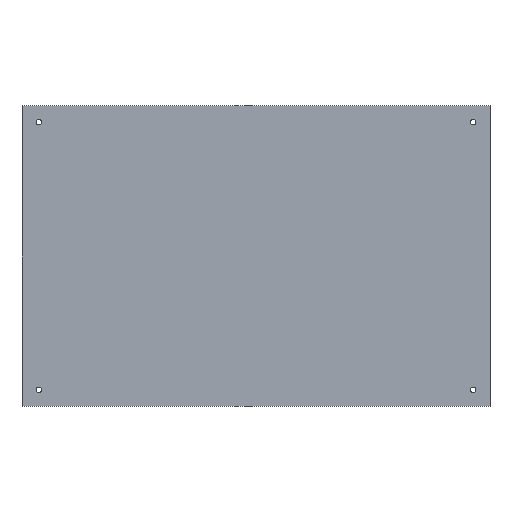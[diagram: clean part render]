
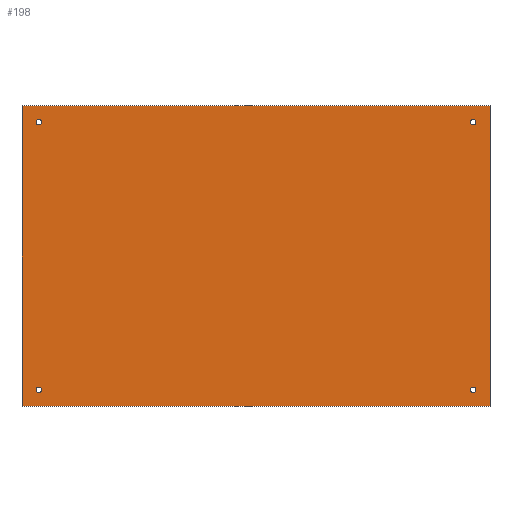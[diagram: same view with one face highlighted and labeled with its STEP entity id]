
A CAD part, top view. The second image highlights one B-rep face of the part: STEP entity #198.
In plain terms, the highlighted planar face has unit normal (0, 0, 1).
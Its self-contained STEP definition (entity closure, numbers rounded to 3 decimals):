
#42 = VERTEX_POINT('',#43);
#43 = CARTESIAN_POINT('',(280.,-180.,1.51));
#49 = EDGE_CURVE('',#42,#50,#52,.T.);
#50 = VERTEX_POINT('',#51);
#51 = CARTESIAN_POINT('',(0.,-180.,1.51));
#52 = LINE('',#53,#54);
#53 = CARTESIAN_POINT('',(280.,-180.,1.51));
#54 = VECTOR('',#55,1.);
#55 = DIRECTION('',(-1.,0.,0.));
#82 = VERTEX_POINT('',#83);
#83 = CARTESIAN_POINT('',(280.,0.,1.51));
#89 = EDGE_CURVE('',#82,#42,#90,.T.);
#90 = LINE('',#91,#92);
#91 = CARTESIAN_POINT('',(280.,0.,1.51));
#92 = VECTOR('',#93,1.);
#93 = DIRECTION('',(0.,-1.,0.));
#111 = EDGE_CURVE('',#50,#112,#114,.T.);
#112 = VERTEX_POINT('',#113);
#113 = CARTESIAN_POINT('',(0.,0.,1.51));
#114 = LINE('',#115,#116);
#115 = CARTESIAN_POINT('',(0.,-180.,1.51));
#116 = VECTOR('',#117,1.);
#117 = DIRECTION('',(0.,1.,0.));
#198 = ADVANCED_FACE('',(#199,#210,#221,#232,#243),#254,.T.);
#199 = FACE_BOUND('',#200,.T.);
#200 = EDGE_LOOP('',(#201,#202,#203,#209));
#201 = ORIENTED_EDGE('',*,*,#49,.F.);
#202 = ORIENTED_EDGE('',*,*,#89,.F.);
#203 = ORIENTED_EDGE('',*,*,#204,.F.);
#204 = EDGE_CURVE('',#112,#82,#205,.T.);
#205 = LINE('',#206,#207);
#206 = CARTESIAN_POINT('',(0.,0.,1.51));
#207 = VECTOR('',#208,1.);
#208 = DIRECTION('',(1.,0.,0.));
#209 = ORIENTED_EDGE('',*,*,#111,.F.);
#210 = FACE_BOUND('',#211,.T.);
#211 = EDGE_LOOP('',(#212));
#212 = ORIENTED_EDGE('',*,*,#213,.T.);
#213 = EDGE_CURVE('',#214,#214,#216,.T.);
#214 = VERTEX_POINT('',#215);
#215 = CARTESIAN_POINT('',(10.,-171.6,1.51));
#216 = CIRCLE('',#217,1.6);
#217 = AXIS2_PLACEMENT_3D('',#218,#219,#220);
#218 = CARTESIAN_POINT('',(10.,-170.,1.51));
#219 = DIRECTION('',(-0.,0.,-1.));
#220 = DIRECTION('',(-0.,-1.,0.));
#221 = FACE_BOUND('',#222,.T.);
#222 = EDGE_LOOP('',(#223));
#223 = ORIENTED_EDGE('',*,*,#224,.T.);
#224 = EDGE_CURVE('',#225,#225,#227,.T.);
#225 = VERTEX_POINT('',#226);
#226 = CARTESIAN_POINT('',(270.,-171.6,1.51));
#227 = CIRCLE('',#228,1.6);
#228 = AXIS2_PLACEMENT_3D('',#229,#230,#231);
#229 = CARTESIAN_POINT('',(270.,-170.,1.51));
#230 = DIRECTION('',(-0.,0.,-1.));
#231 = DIRECTION('',(-0.,-1.,0.));
#232 = FACE_BOUND('',#233,.T.);
#233 = EDGE_LOOP('',(#234));
#234 = ORIENTED_EDGE('',*,*,#235,.T.);
#235 = EDGE_CURVE('',#236,#236,#238,.T.);
#236 = VERTEX_POINT('',#237);
#237 = CARTESIAN_POINT('',(10.,-11.6,1.51));
#238 = CIRCLE('',#239,1.6);
#239 = AXIS2_PLACEMENT_3D('',#240,#241,#242);
#240 = CARTESIAN_POINT('',(10.,-10.,1.51));
#241 = DIRECTION('',(-0.,0.,-1.));
#242 = DIRECTION('',(-0.,-1.,0.));
#243 = FACE_BOUND('',#244,.T.);
#244 = EDGE_LOOP('',(#245));
#245 = ORIENTED_EDGE('',*,*,#246,.T.);
#246 = EDGE_CURVE('',#247,#247,#249,.T.);
#247 = VERTEX_POINT('',#248);
#248 = CARTESIAN_POINT('',(270.,-11.6,1.51));
#249 = CIRCLE('',#250,1.6);
#250 = AXIS2_PLACEMENT_3D('',#251,#252,#253);
#251 = CARTESIAN_POINT('',(270.,-10.,1.51));
#252 = DIRECTION('',(-0.,0.,-1.));
#253 = DIRECTION('',(-0.,-1.,0.));
#254 = PLANE('',#255);
#255 = AXIS2_PLACEMENT_3D('',#256,#257,#258);
#256 = CARTESIAN_POINT('',(0.,0.,1.51));
#257 = DIRECTION('',(0.,0.,1.));
#258 = DIRECTION('',(1.,0.,-0.));
